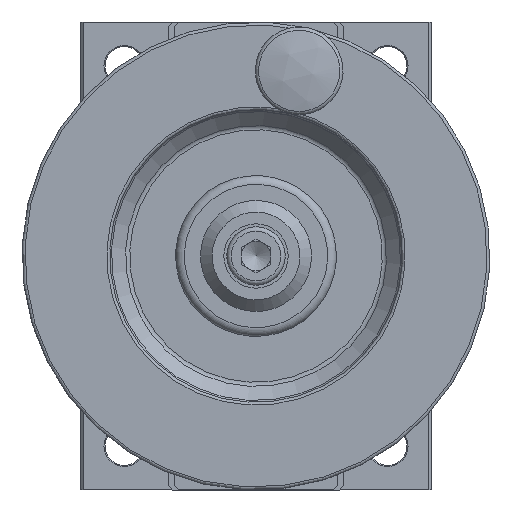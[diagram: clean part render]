
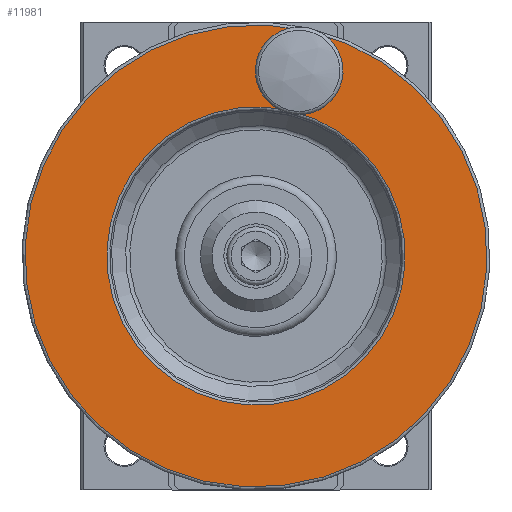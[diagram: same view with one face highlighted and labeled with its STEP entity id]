
A CAD part, left-side view. The second image highlights one B-rep face of the part: STEP entity #11981.
In plain terms, the highlighted planar face has unit normal (-1, 0, 0).
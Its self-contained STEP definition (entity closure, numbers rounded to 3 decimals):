
#379 = CARTESIAN_POINT ( 'NONE',  ( -26.5, 3.694, -9.032 ) ) ;
#402 = DIRECTION ( 'NONE',  ( 0., -0.974, -0.227 ) ) ;
#405 = CARTESIAN_POINT ( 'NONE',  ( -26.5, -24.467, -48.974 ) ) ;
#844 = EDGE_LOOP ( 'NONE', ( #9293 ) ) ;
#894 = AXIS2_PLACEMENT_3D ( 'NONE', #7013, #6826, #402 ) ;
#912 = EDGE_LOOP ( 'NONE', ( #3375 ) ) ;
#955 = CIRCLE ( 'NONE', #11896, 25.5 ) ;
#1320 = ORIENTED_EDGE ( 'NONE', *, *, #6310, .T. ) ;
#1642 = CARTESIAN_POINT ( 'NONE',  ( -26.5, 6.616, -8.35 ) ) ;
#2429 = FACE_BOUND ( 'NONE', #912, .T. ) ;
#3172 = VERTEX_POINT ( 'NONE', #379 ) ;
#3375 = ORIENTED_EDGE ( 'NONE', *, *, #10329, .T. ) ;
#3830 = EDGE_CURVE ( 'NONE', #6162, #6162, #6756, .T. ) ;
#3844 = AXIS2_PLACEMENT_3D ( 'NONE', #1642, #11133, #4589 ) ;
#4155 = FACE_BOUND ( 'NONE', #10840, .T. ) ;
#4284 = DIRECTION ( 'NONE',  ( 1., 0., 0. ) ) ;
#4437 = CARTESIAN_POINT ( 'NONE',  ( -26.5, 14., -40. ) ) ;
#4500 = DIRECTION ( 'NONE',  ( 0., -0.974, -0.227 ) ) ;
#4549 = VERTEX_POINT ( 'NONE', #7481 ) ;
#4589 = DIRECTION ( 'NONE',  ( 0., -0.974, -0.227 ) ) ;
#5066 = AXIS2_PLACEMENT_3D ( 'NONE', #9917, #4284, #11606 ) ;
#6162 = VERTEX_POINT ( 'NONE', #405 ) ;
#6180 = FACE_OUTER_BOUND ( 'NONE', #844, .T. ) ;
#6310 = EDGE_CURVE ( 'NONE', #3172, #3172, #7562, .T. ) ;
#6756 = CIRCLE ( 'NONE', #894, 39.5 ) ;
#6826 = DIRECTION ( 'NONE',  ( -1., 0., 0. ) ) ;
#7013 = CARTESIAN_POINT ( 'NONE',  ( -26.5, 14., -40. ) ) ;
#7481 = CARTESIAN_POINT ( 'NONE',  ( -26.5, -10.833, -45.793 ) ) ;
#7562 = CIRCLE ( 'NONE', #3844, 3.001 ) ;
#7955 = PLANE ( 'NONE',  #5066 ) ;
#8179 = DIRECTION ( 'NONE',  ( 1., 0., 0. ) ) ;
#9293 = ORIENTED_EDGE ( 'NONE', *, *, #3830, .T. ) ;
#9917 = CARTESIAN_POINT ( 'NONE',  ( -26.5, 23.088, -78.954 ) ) ;
#10329 = EDGE_CURVE ( 'NONE', #4549, #4549, #955, .T. ) ;
#10840 = EDGE_LOOP ( 'NONE', ( #1320 ) ) ;
#11133 = DIRECTION ( 'NONE',  ( 1., 0., 0. ) ) ;
#11606 = DIRECTION ( 'NONE',  ( 0., -0.974, -0.227 ) ) ;
#11896 = AXIS2_PLACEMENT_3D ( 'NONE', #4437, #8179, #4500 ) ;
#11981 = ADVANCED_FACE ( 'NONE', ( #4155, #2429, #6180 ), #7955, .F. ) ;
